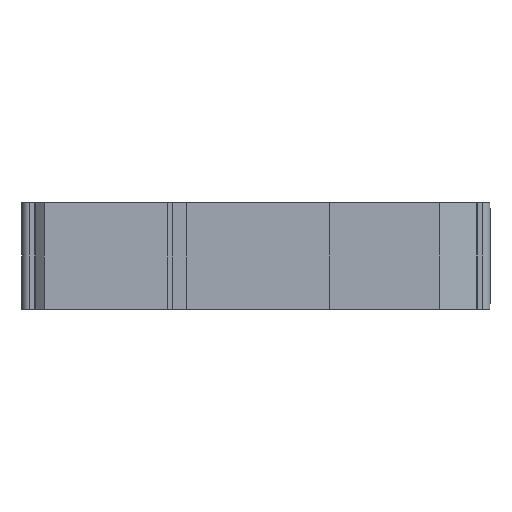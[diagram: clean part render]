
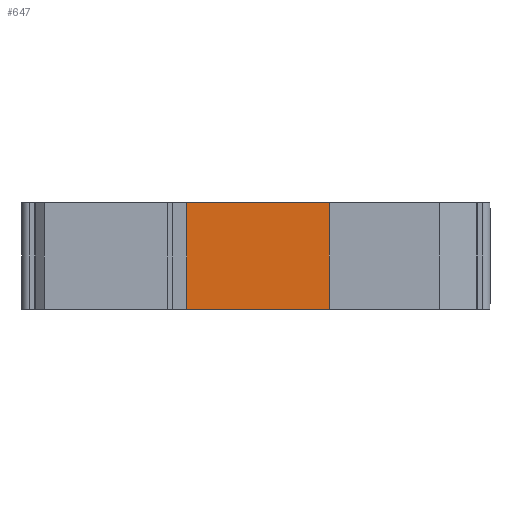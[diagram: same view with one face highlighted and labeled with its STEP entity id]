
A CAD part, front view. The second image highlights one B-rep face of the part: STEP entity #647.
In plain terms, the highlighted planar face has unit normal (0, -1, 0).
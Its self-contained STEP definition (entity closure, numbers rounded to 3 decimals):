
#647=ADVANCED_FACE('',(#1308),#995,.F.);
#995=PLANE('',#6849);
#1308=FACE_OUTER_BOUND('',#1630,.T.);
#1630=EDGE_LOOP('',(#2158,#2159,#2160,#2161));
#2158=ORIENTED_EDGE('',*,*,#4451,.T.);
#2159=ORIENTED_EDGE('',*,*,#4418,.F.);
#2160=ORIENTED_EDGE('',*,*,#4452,.T.);
#2161=ORIENTED_EDGE('',*,*,#4453,.F.);
#3840=VERTEX_POINT('',#8910);
#3841=VERTEX_POINT('',#8912);
#3872=VERTEX_POINT('',#8978);
#3873=VERTEX_POINT('',#8980);
#4418=EDGE_CURVE('',#3840,#3841,#5275,.T.);
#4451=EDGE_CURVE('',#3872,#3841,#5303,.T.);
#4452=EDGE_CURVE('',#3840,#3873,#5304,.T.);
#4453=EDGE_CURVE('',#3872,#3873,#5305,.T.);
#5275=LINE('',#8911,#6063);
#5303=LINE('',#8977,#6091);
#5304=LINE('',#8979,#6092);
#5305=LINE('',#8981,#6093);
#6063=VECTOR('',#7274,1.);
#6091=VECTOR('',#7316,1.);
#6092=VECTOR('',#7317,1.);
#6093=VECTOR('',#7318,1.);
#6849=AXIS2_PLACEMENT_3D('',#8982,#7319,#7320);
#7274=DIRECTION('',(-1.,0.,0.));
#7316=DIRECTION('',(0.,0.,-1.));
#7317=DIRECTION('',(0.,0.,1.));
#7318=DIRECTION('',(1.,0.,0.));
#7319=DIRECTION('',(0.,1.,0.));
#7320=DIRECTION('',(-1.,0.,0.));
#8910=CARTESIAN_POINT('',(0.,0.,0.));
#8911=CARTESIAN_POINT('',(-17.5,0.,0.));
#8912=CARTESIAN_POINT('',(-34.4,0.,0.));
#8977=CARTESIAN_POINT('',(-34.4,0.,11.3));
#8978=CARTESIAN_POINT('',(-34.4,0.,22.6));
#8979=CARTESIAN_POINT('',(0.,0.,11.3));
#8980=CARTESIAN_POINT('',(0.,0.,22.6));
#8981=CARTESIAN_POINT('',(-17.5,0.,22.6));
#8982=CARTESIAN_POINT('',(-17.5,0.,11.3));
